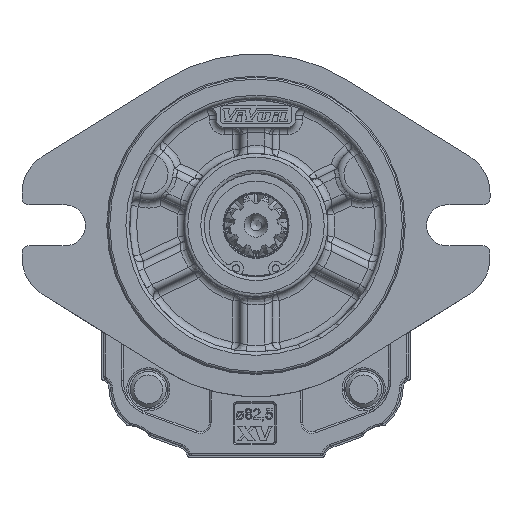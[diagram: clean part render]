
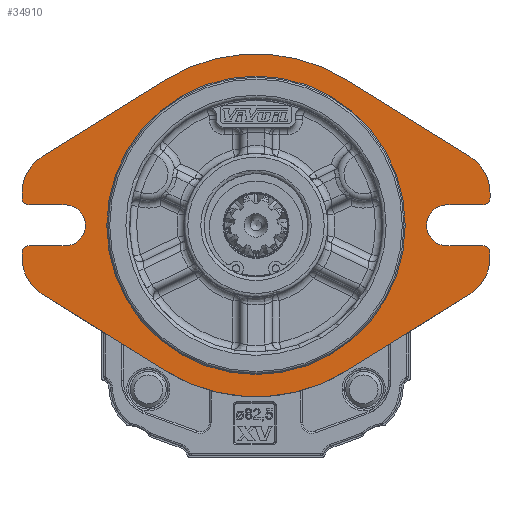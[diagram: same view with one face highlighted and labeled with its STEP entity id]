
A CAD part, front view. The second image highlights one B-rep face of the part: STEP entity #34910.
In plain terms, the highlighted planar face has unit normal (0, -1, 0).
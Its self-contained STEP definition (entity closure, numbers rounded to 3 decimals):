
#1558=LINE('',#51484,#3468);
#1562=LINE('',#51496,#3472);
#1563=LINE('',#51498,#3473);
#1570=LINE('',#51517,#3480);
#1571=LINE('',#51519,#3481);
#1578=LINE('',#51548,#3488);
#1579=LINE('',#51553,#3489);
#1580=LINE('',#51557,#3490);
#1581=LINE('',#51560,#3491);
#1582=LINE('',#51564,#3492);
#1583=LINE('',#51568,#3493);
#1584=LINE('',#51572,#3494);
#3468=VECTOR('',#40992,1000.);
#3472=VECTOR('',#41004,1000.);
#3473=VECTOR('',#41007,1000.);
#3480=VECTOR('',#41022,1000.);
#3481=VECTOR('',#41025,1000.);
#3488=VECTOR('',#41054,1000.);
#3489=VECTOR('',#41057,1000.);
#3490=VECTOR('',#41060,1000.);
#3491=VECTOR('',#41065,1000.);
#3492=VECTOR('',#41068,1000.);
#3493=VECTOR('',#41071,1000.);
#3494=VECTOR('',#41074,1000.);
#4926=PLANE('',#36824);
#8342=ORIENTED_EDGE('',*,*,#14797,.T.);
#8343=ORIENTED_EDGE('',*,*,#14798,.F.);
#8344=ORIENTED_EDGE('',*,*,#14799,.T.);
#8345=ORIENTED_EDGE('',*,*,#14800,.F.);
#8346=ORIENTED_EDGE('',*,*,#14801,.F.);
#8347=ORIENTED_EDGE('',*,*,#14802,.F.);
#8348=ORIENTED_EDGE('',*,*,#14718,.F.);
#8349=ORIENTED_EDGE('',*,*,#14767,.F.);
#8350=ORIENTED_EDGE('',*,*,#14770,.F.);
#8351=ORIENTED_EDGE('',*,*,#14773,.F.);
#8352=ORIENTED_EDGE('',*,*,#14803,.T.);
#8353=ORIENTED_EDGE('',*,*,#14774,.F.);
#8354=ORIENTED_EDGE('',*,*,#14780,.F.);
#8355=ORIENTED_EDGE('',*,*,#14783,.F.);
#8356=ORIENTED_EDGE('',*,*,#14804,.T.);
#8357=ORIENTED_EDGE('',*,*,#14784,.F.);
#8358=ORIENTED_EDGE('',*,*,#14796,.F.);
#8359=ORIENTED_EDGE('',*,*,#14805,.F.);
#8360=ORIENTED_EDGE('',*,*,#14806,.F.);
#8361=ORIENTED_EDGE('',*,*,#14807,.F.);
#8362=ORIENTED_EDGE('',*,*,#14808,.F.);
#8363=ORIENTED_EDGE('',*,*,#14809,.F.);
#8364=ORIENTED_EDGE('',*,*,#14810,.T.);
#8365=ORIENTED_EDGE('',*,*,#14811,.F.);
#8366=ORIENTED_EDGE('',*,*,#14812,.F.);
#14718=EDGE_CURVE('',#18092,#18093,#20049,.T.);
#14767=EDGE_CURVE('',#18135,#18092,#1558,.T.);
#14770=EDGE_CURVE('',#18137,#18135,#20077,.T.);
#14773=EDGE_CURVE('',#18139,#18137,#1562,.T.);
#14774=EDGE_CURVE('',#18140,#18141,#1563,.T.);
#14780=EDGE_CURVE('',#18145,#18140,#20079,.T.);
#14783=EDGE_CURVE('',#18147,#18145,#1570,.T.);
#14784=EDGE_CURVE('',#18148,#18149,#1571,.T.);
#14796=EDGE_CURVE('',#18157,#18148,#20085,.T.);
#14797=EDGE_CURVE('',#18158,#18158,#20086,.T.);
#14798=EDGE_CURVE('',#18159,#18160,#1578,.T.);
#14799=EDGE_CURVE('',#18159,#18161,#20087,.F.);
#14800=EDGE_CURVE('',#18162,#18161,#1579,.T.);
#14801=EDGE_CURVE('',#18163,#18162,#20088,.T.);
#14802=EDGE_CURVE('',#18093,#18163,#1580,.T.);
#14803=EDGE_CURVE('',#18139,#18141,#20089,.F.);
#14804=EDGE_CURVE('',#18147,#18149,#20090,.F.);
#14805=EDGE_CURVE('',#18164,#18157,#1581,.T.);
#14806=EDGE_CURVE('',#18165,#18164,#20091,.T.);
#14807=EDGE_CURVE('',#18166,#18165,#1582,.T.);
#14808=EDGE_CURVE('',#18167,#18166,#20092,.T.);
#14809=EDGE_CURVE('',#18168,#18167,#1583,.T.);
#14810=EDGE_CURVE('',#18168,#18169,#20093,.F.);
#14811=EDGE_CURVE('',#18170,#18169,#1584,.T.);
#14812=EDGE_CURVE('',#18160,#18170,#20094,.T.);
#18092=VERTEX_POINT('',#51384);
#18093=VERTEX_POINT('',#51386);
#18135=VERTEX_POINT('',#51483);
#18137=VERTEX_POINT('',#51489);
#18139=VERTEX_POINT('',#51495);
#18140=VERTEX_POINT('',#51499);
#18141=VERTEX_POINT('',#51500);
#18145=VERTEX_POINT('',#51510);
#18147=VERTEX_POINT('',#51516);
#18148=VERTEX_POINT('',#51520);
#18149=VERTEX_POINT('',#51521);
#18157=VERTEX_POINT('',#51543);
#18158=VERTEX_POINT('',#51547);
#18159=VERTEX_POINT('',#51549);
#18160=VERTEX_POINT('',#51550);
#18161=VERTEX_POINT('',#51552);
#18162=VERTEX_POINT('',#51554);
#18163=VERTEX_POINT('',#51556);
#18164=VERTEX_POINT('',#51561);
#18165=VERTEX_POINT('',#51563);
#18166=VERTEX_POINT('',#51565);
#18167=VERTEX_POINT('',#51567);
#18168=VERTEX_POINT('',#51569);
#18169=VERTEX_POINT('',#51571);
#18170=VERTEX_POINT('',#51573);
#20049=CIRCLE('',#36773,47.75);
#20077=CIRCLE('',#36807,12.);
#20079=CIRCLE('',#36812,5.7);
#20085=CIRCLE('',#36823,12.);
#20086=CIRCLE('',#36825,40.982);
#20087=CIRCLE('',#36826,2.);
#20088=CIRCLE('',#36827,12.);
#20089=CIRCLE('',#36828,2.);
#20090=CIRCLE('',#36829,2.);
#20091=CIRCLE('',#36830,47.75);
#20092=CIRCLE('',#36831,12.);
#20093=CIRCLE('',#36832,2.);
#20094=CIRCLE('',#36833,5.7);
#21534=EDGE_LOOP('',(#8342));
#21535=EDGE_LOOP('',(#8343,#8344,#8345,#8346,#8347,#8348,#8349,#8350,#8351,
#8352,#8353,#8354,#8355,#8356,#8357,#8358,#8359,#8360,#8361,#8362,#8363,
#8364,#8365,#8366));
#23222=FACE_BOUND('',#21534,.T.);
#23223=FACE_BOUND('',#21535,.T.);
#34910=ADVANCED_FACE('',(#23222,#23223),#4926,.F.);
#36773=AXIS2_PLACEMENT_3D('',#51385,#40908,#40909);
#36807=AXIS2_PLACEMENT_3D('',#51490,#40998,#40999);
#36812=AXIS2_PLACEMENT_3D('',#51511,#41016,#41017);
#36823=AXIS2_PLACEMENT_3D('',#51544,#41048,#41049);
#36824=AXIS2_PLACEMENT_3D('',#51545,#41050,#41051);
#36825=AXIS2_PLACEMENT_3D('',#51546,#41052,#41053);
#36826=AXIS2_PLACEMENT_3D('',#51551,#41055,#41056);
#36827=AXIS2_PLACEMENT_3D('',#51555,#41058,#41059);
#36828=AXIS2_PLACEMENT_3D('',#51558,#41061,#41062);
#36829=AXIS2_PLACEMENT_3D('',#51559,#41063,#41064);
#36830=AXIS2_PLACEMENT_3D('',#51562,#41066,#41067);
#36831=AXIS2_PLACEMENT_3D('',#51566,#41069,#41070);
#36832=AXIS2_PLACEMENT_3D('',#51570,#41072,#41073);
#36833=AXIS2_PLACEMENT_3D('',#51574,#41075,#41076);
#40908=DIRECTION('',(0.,1.,0.));
#40909=DIRECTION('',(-1.,0.,0.));
#40992=DIRECTION('',(-0.849,0.,-0.528));
#40998=DIRECTION('',(0.,1.,0.));
#40999=DIRECTION('',(-1.,0.,0.));
#41004=DIRECTION('',(0.,0.,-1.));
#41007=DIRECTION('',(1.,0.,0.));
#41016=DIRECTION('',(0.,-1.,0.));
#41017=DIRECTION('',(1.,0.,0.));
#41022=DIRECTION('',(-1.,0.,0.));
#41025=DIRECTION('',(0.,0.,-1.));
#41048=DIRECTION('',(0.,1.,0.));
#41049=DIRECTION('',(-1.,0.,0.));
#41050=DIRECTION('',(0.,1.,0.));
#41051=DIRECTION('',(0.,0.,-1.));
#41052=DIRECTION('',(0.,1.,0.));
#41053=DIRECTION('',(-1.,0.,0.));
#41054=DIRECTION('',(1.,0.,0.));
#41055=DIRECTION('',(0.,1.,0.));
#41056=DIRECTION('',(0.,0.,-1.));
#41057=DIRECTION('',(0.,0.,1.));
#41058=DIRECTION('',(0.,1.,0.));
#41059=DIRECTION('',(1.,0.,0.));
#41060=DIRECTION('',(-0.849,0.,0.528));
#41061=DIRECTION('',(0.,1.,0.));
#41062=DIRECTION('',(0.,0.,-1.));
#41063=DIRECTION('',(0.,1.,0.));
#41064=DIRECTION('',(0.,0.,-1.));
#41065=DIRECTION('',(0.849,0.,-0.528));
#41066=DIRECTION('',(0.,1.,0.));
#41067=DIRECTION('',(-1.,0.,0.));
#41068=DIRECTION('',(0.849,0.,0.528));
#41069=DIRECTION('',(0.,1.,0.));
#41070=DIRECTION('',(1.,0.,0.));
#41071=DIRECTION('',(0.,0.,1.));
#41072=DIRECTION('',(0.,1.,0.));
#41073=DIRECTION('',(0.,0.,-1.));
#41074=DIRECTION('',(-1.,0.,0.));
#41075=DIRECTION('',(0.,-1.,0.));
#41076=DIRECTION('',(-1.,0.,0.));
#51384=CARTESIAN_POINT('',(25.235,-19.,-24.837));
#51385=CARTESIAN_POINT('',(0.,-19.,15.7));
#51386=CARTESIAN_POINT('',(-25.235,-19.,-24.837));
#51483=CARTESIAN_POINT('',(59.532,-19.,-3.487));
#51484=CARTESIAN_POINT('',(59.532,-19.,-3.487));
#51489=CARTESIAN_POINT('',(65.19,-19.,6.7));
#51490=CARTESIAN_POINT('',(53.19,-19.,6.7));
#51495=CARTESIAN_POINT('',(65.19,-19.,8.));
#51496=CARTESIAN_POINT('',(65.19,-19.,6.7));
#51498=CARTESIAN_POINT('',(53.19,-19.,10.));
#51499=CARTESIAN_POINT('',(53.19,-19.,10.));
#51500=CARTESIAN_POINT('',(63.19,-19.,10.));
#51510=CARTESIAN_POINT('',(53.19,-19.,21.4));
#51511=CARTESIAN_POINT('',(53.19,-19.,15.7));
#51516=CARTESIAN_POINT('',(63.19,-19.,21.4));
#51517=CARTESIAN_POINT('',(53.19,-19.,21.4));
#51519=CARTESIAN_POINT('',(65.19,-19.,24.7));
#51520=CARTESIAN_POINT('',(65.19,-19.,24.7));
#51521=CARTESIAN_POINT('',(65.19,-19.,23.4));
#51543=CARTESIAN_POINT('',(59.532,-19.,34.887));
#51544=CARTESIAN_POINT('',(53.19,-19.,24.7));
#51545=CARTESIAN_POINT('',(0.,-19.,15.7));
#51546=CARTESIAN_POINT('',(0.,-19.,15.7));
#51547=CARTESIAN_POINT('',(-40.982,-19.,15.7));
#51548=CARTESIAN_POINT('',(-53.19,-19.,10.));
#51549=CARTESIAN_POINT('',(-63.19,-19.,10.));
#51550=CARTESIAN_POINT('',(-53.19,-19.,10.));
#51551=CARTESIAN_POINT('',(-63.19,-19.,8.));
#51552=CARTESIAN_POINT('',(-65.19,-19.,8.));
#51553=CARTESIAN_POINT('',(-65.19,-19.,6.7));
#51554=CARTESIAN_POINT('',(-65.19,-19.,6.7));
#51555=CARTESIAN_POINT('',(-53.19,-19.,6.7));
#51556=CARTESIAN_POINT('',(-59.532,-19.,-3.487));
#51557=CARTESIAN_POINT('',(-59.532,-19.,-3.487));
#51558=CARTESIAN_POINT('',(63.19,-19.,8.));
#51559=CARTESIAN_POINT('',(63.19,-19.,23.4));
#51560=CARTESIAN_POINT('',(25.235,-19.,56.237));
#51561=CARTESIAN_POINT('',(25.235,-19.,56.237));
#51562=CARTESIAN_POINT('',(0.,-19.,15.7));
#51563=CARTESIAN_POINT('',(-25.235,-19.,56.237));
#51564=CARTESIAN_POINT('',(-25.235,-19.,56.237));
#51565=CARTESIAN_POINT('',(-59.532,-19.,34.887));
#51566=CARTESIAN_POINT('',(-53.19,-19.,24.7));
#51567=CARTESIAN_POINT('',(-65.19,-19.,24.7));
#51568=CARTESIAN_POINT('',(-65.19,-19.,24.7));
#51569=CARTESIAN_POINT('',(-65.19,-19.,23.4));
#51570=CARTESIAN_POINT('',(-63.19,-19.,23.4));
#51571=CARTESIAN_POINT('',(-63.19,-19.,21.4));
#51572=CARTESIAN_POINT('',(-53.19,-19.,21.4));
#51573=CARTESIAN_POINT('',(-53.19,-19.,21.4));
#51574=CARTESIAN_POINT('',(-53.19,-19.,15.7));
